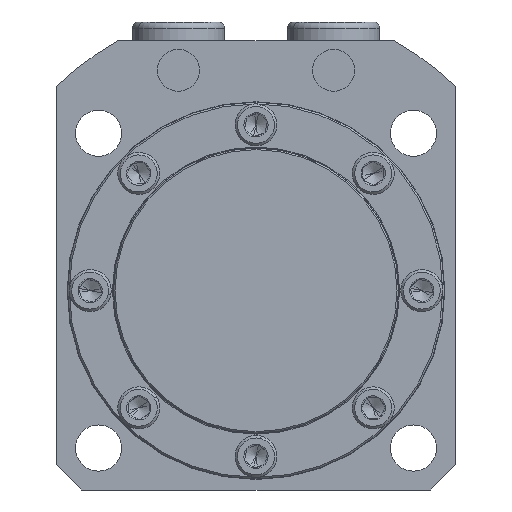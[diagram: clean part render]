
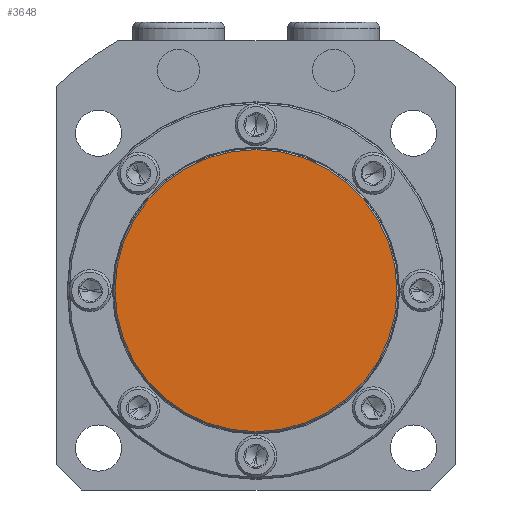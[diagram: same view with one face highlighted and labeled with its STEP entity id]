
A CAD part, front view. The second image highlights one B-rep face of the part: STEP entity #3648.
In plain terms, the highlighted planar face has unit normal (0, -1, 0).
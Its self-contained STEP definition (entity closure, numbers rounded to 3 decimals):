
#174 = CIRCLE ( 'NONE', #181, 33.6 ) ;
#181 = AXIS2_PLACEMENT_3D ( 'NONE', #1613, #1615, #1617 ) ;
#729 = CARTESIAN_POINT ( 'NONE',  ( 0., -13., 0. ) ) ;
#737 = FACE_OUTER_BOUND ( 'NONE', #4451, .T. ) ;
#738 = PLANE ( 'NONE',  #4562 ) ;
#741 = DIRECTION ( 'NONE',  ( 0., -1., 0. ) ) ;
#742 = DIRECTION ( 'NONE',  ( 0., 0., -1. ) ) ;
#1613 = CARTESIAN_POINT ( 'NONE',  ( 0., -13., 0. ) ) ;
#1615 = DIRECTION ( 'NONE',  ( 0., -1., 0. ) ) ;
#1617 = DIRECTION ( 'NONE',  ( 0., 0., -1. ) ) ;
#3648 = ADVANCED_FACE ( 'NONE', ( #737 ), #738, .T. ) ;
#3717 = EDGE_CURVE ( 'NONE', #4255, #4190, #4666, .T. ) ;
#3820 = ORIENTED_EDGE ( 'NONE', *, *, #3717, .T. ) ;
#3821 = ORIENTED_EDGE ( 'NONE', *, *, #7524, .T. ) ;
#4190 = VERTEX_POINT ( 'NONE', #6270 ) ;
#4255 = VERTEX_POINT ( 'NONE', #6335 ) ;
#4451 = EDGE_LOOP ( 'NONE', ( #3820, #3821 ) ) ;
#4562 = AXIS2_PLACEMENT_3D ( 'NONE', #729, #741, #742 ) ;
#4666 = CIRCLE ( 'NONE', #4669, 33.6 ) ;
#4669 = AXIS2_PLACEMENT_3D ( 'NONE', #5682, #5683, #5684 ) ;
#5682 = CARTESIAN_POINT ( 'NONE',  ( 0., -13., 0. ) ) ;
#5683 = DIRECTION ( 'NONE',  ( 0., -1., 0. ) ) ;
#5684 = DIRECTION ( 'NONE',  ( 0., 0., -1. ) ) ;
#6270 = CARTESIAN_POINT ( 'NONE',  ( 0., -13., -33.6 ) ) ;
#6335 = CARTESIAN_POINT ( 'NONE',  ( 0., -13., 33.6 ) ) ;
#7524 = EDGE_CURVE ( 'NONE', #4190, #4255, #174, .T. ) ;
